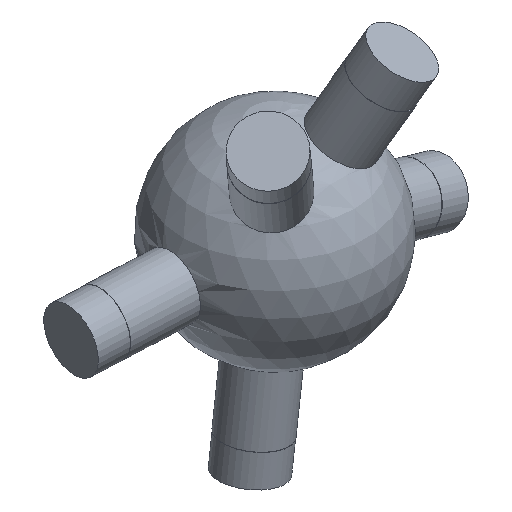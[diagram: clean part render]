
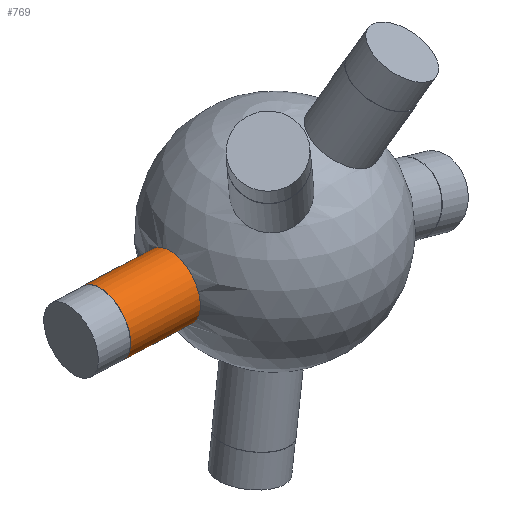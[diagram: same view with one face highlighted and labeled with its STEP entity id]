
A CAD part, isometric view. The second image highlights one B-rep face of the part: STEP entity #769.
In plain terms, the highlighted cylindrical face has radius 6 mm (diameter 12 mm), a full revolution.
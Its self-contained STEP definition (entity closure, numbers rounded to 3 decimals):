
#33 = SPHERICAL_SURFACE('',#34,20.);
#34 = AXIS2_PLACEMENT_3D('',#35,#36,#37);
#35 = CARTESIAN_POINT('',(0.,0.,0.));
#36 = DIRECTION('',(0.,0.,1.));
#37 = DIRECTION('',(1.,0.,-0.));
#352 = EDGE_CURVE('',#353,#353,#355,.T.);
#353 = VERTEX_POINT('',#354);
#354 = CARTESIAN_POINT('',(-19.474,-4.506,
    -0.674));
#355 = SURFACE_CURVE('',#356,(#361,#423),.PCURVE_S1.);
#356 = CIRCLE('',#357,6.);
#357 = AXIS2_PLACEMENT_3D('',#358,#359,#360);
#358 = CARTESIAN_POINT('',(-19.01,1.476,
    -0.674));
#359 = DIRECTION('',(-0.996,0.077,
    -0.035));
#360 = DIRECTION('',(-0.077,-0.997,
    0.));
#361 = PCURVE('',#33,#362);
#362 = DEFINITIONAL_REPRESENTATION('',(#363),#422);
#363 = B_SPLINE_CURVE_WITH_KNOTS('',8,(#364,#365,#366,#367,#368,#369,
    #370,#371,#372,#373,#374,#375,#376,#377,#378,#379,#380,#381,#382,
    #383,#384,#385,#386,#387,#388,#389,#390,#391,#392,#393,#394,#395,
    #396,#397,#398,#399,#400,#401,#402,#403,#404,#405,#406,#407,#408,
    #409,#410,#411,#412,#413,#414,#415,#416,#417,#418,#419,#420,#421),
  .UNSPECIFIED.,.F.,.F.,(9,7,7,7,7,7,7,7,9),(0.,0.785,
    1.473,2.074,3.126,3.915,
    4.507,5.395,6.283),.UNSPECIFIED.);
#364 = CARTESIAN_POINT('',(3.369,-0.034));
#365 = CARTESIAN_POINT('',(3.369,-0.004));
#366 = CARTESIAN_POINT('',(3.365,0.025));
#367 = CARTESIAN_POINT('',(3.359,0.054));
#368 = CARTESIAN_POINT('',(3.349,0.082));
#369 = CARTESIAN_POINT('',(3.336,0.109));
#370 = CARTESIAN_POINT('',(3.321,0.135));
#371 = CARTESIAN_POINT('',(3.302,0.158));
#372 = CARTESIAN_POINT('',(3.263,0.198));
#373 = CARTESIAN_POINT('',(3.243,0.215));
#374 = CARTESIAN_POINT('',(3.221,0.229));
#375 = CARTESIAN_POINT('',(3.198,0.242));
#376 = CARTESIAN_POINT('',(3.173,0.252));
#377 = CARTESIAN_POINT('',(3.147,0.26));
#378 = CARTESIAN_POINT('',(3.121,0.265));
#379 = CARTESIAN_POINT('',(3.071,0.27));
#380 = CARTESIAN_POINT('',(3.048,0.27));
#381 = CARTESIAN_POINT('',(3.024,0.269));
#382 = CARTESIAN_POINT('',(3.001,0.265));
#383 = CARTESIAN_POINT('',(2.978,0.259));
#384 = CARTESIAN_POINT('',(2.956,0.252));
#385 = CARTESIAN_POINT('',(2.935,0.242));
#386 = CARTESIAN_POINT('',(2.88,0.211));
#387 = CARTESIAN_POINT('',(2.848,0.187));
#388 = CARTESIAN_POINT('',(2.82,0.157));
#389 = CARTESIAN_POINT('',(2.797,0.124));
#390 = CARTESIAN_POINT('',(2.779,0.088));
#391 = CARTESIAN_POINT('',(2.767,0.05));
#392 = CARTESIAN_POINT('',(2.76,0.01));
#393 = CARTESIAN_POINT('',(2.759,-0.059));
#394 = CARTESIAN_POINT('',(2.761,-0.088));
#395 = CARTESIAN_POINT('',(2.767,-0.118));
#396 = CARTESIAN_POINT('',(2.775,-0.146));
#397 = CARTESIAN_POINT('',(2.787,-0.174));
#398 = CARTESIAN_POINT('',(2.802,-0.2));
#399 = CARTESIAN_POINT('',(2.82,-0.224));
#400 = CARTESIAN_POINT('',(2.857,-0.262));
#401 = CARTESIAN_POINT('',(2.873,-0.277));
#402 = CARTESIAN_POINT('',(2.892,-0.291));
#403 = CARTESIAN_POINT('',(2.912,-0.303));
#404 = CARTESIAN_POINT('',(2.932,-0.313));
#405 = CARTESIAN_POINT('',(2.954,-0.322));
#406 = CARTESIAN_POINT('',(2.976,-0.329));
#407 = CARTESIAN_POINT('',(3.034,-0.341));
#408 = CARTESIAN_POINT('',(3.069,-0.343));
#409 = CARTESIAN_POINT('',(3.105,-0.342));
#410 = CARTESIAN_POINT('',(3.141,-0.335));
#411 = CARTESIAN_POINT('',(3.175,-0.325));
#412 = CARTESIAN_POINT('',(3.206,-0.31));
#413 = CARTESIAN_POINT('',(3.236,-0.291));
#414 = CARTESIAN_POINT('',(3.288,-0.248));
#415 = CARTESIAN_POINT('',(3.311,-0.223));
#416 = CARTESIAN_POINT('',(3.33,-0.195));
#417 = CARTESIAN_POINT('',(3.346,-0.165));
#418 = CARTESIAN_POINT('',(3.358,-0.133));
#419 = CARTESIAN_POINT('',(3.366,-0.1));
#420 = CARTESIAN_POINT('',(3.369,-0.067));
#421 = CARTESIAN_POINT('',(3.369,-0.034));
#422 = ( GEOMETRIC_REPRESENTATION_CONTEXT(2) 
PARAMETRIC_REPRESENTATION_CONTEXT() REPRESENTATION_CONTEXT('2D SPACE',''
  ) );
#423 = PCURVE('',#424,#429);
#424 = CYLINDRICAL_SURFACE('',#425,6.);
#425 = AXIS2_PLACEMENT_3D('',#426,#427,#428);
#426 = CARTESIAN_POINT('',(0.,0.,0.));
#427 = DIRECTION('',(-0.996,0.077,
    -0.035));
#428 = DIRECTION('',(-0.077,-0.997,
    0.));
#429 = DEFINITIONAL_REPRESENTATION('',(#430),#434);
#430 = LINE('',#431,#432);
#431 = CARTESIAN_POINT('',(0.,19.079));
#432 = VECTOR('',#433,1.);
#433 = DIRECTION('',(1.,0.));
#434 = ( GEOMETRIC_REPRESENTATION_CONTEXT(2) 
PARAMETRIC_REPRESENTATION_CONTEXT() REPRESENTATION_CONTEXT('2D SPACE',''
  ) );
#769 = ADVANCED_FACE('',(#770),#424,.T.);
#770 = FACE_BOUND('',#771,.T.);
#771 = EDGE_LOOP('',(#772,#795,#822,#823));
#772 = ORIENTED_EDGE('',*,*,#773,.T.);
#773 = EDGE_CURVE('',#353,#774,#776,.T.);
#774 = VERTEX_POINT('',#775);
#775 = CARTESIAN_POINT('',(-32.478,-3.496,
    -1.134));
#776 = SEAM_CURVE('',#777,(#781,#788),.PCURVE_S1.);
#777 = LINE('',#778,#779);
#778 = CARTESIAN_POINT('',(-0.465,-5.982,
    0.));
#779 = VECTOR('',#780,1.);
#780 = DIRECTION('',(-0.996,0.077,
    -0.035));
#781 = PCURVE('',#424,#782);
#782 = DEFINITIONAL_REPRESENTATION('',(#783),#787);
#783 = LINE('',#784,#785);
#784 = CARTESIAN_POINT('',(6.283,-0.));
#785 = VECTOR('',#786,1.);
#786 = DIRECTION('',(0.,1.));
#787 = ( GEOMETRIC_REPRESENTATION_CONTEXT(2) 
PARAMETRIC_REPRESENTATION_CONTEXT() REPRESENTATION_CONTEXT('2D SPACE',''
  ) );
#788 = PCURVE('',#424,#789);
#789 = DEFINITIONAL_REPRESENTATION('',(#790),#794);
#790 = LINE('',#791,#792);
#791 = CARTESIAN_POINT('',(0.,-0.));
#792 = VECTOR('',#793,1.);
#793 = DIRECTION('',(0.,1.));
#794 = ( GEOMETRIC_REPRESENTATION_CONTEXT(2) 
PARAMETRIC_REPRESENTATION_CONTEXT() REPRESENTATION_CONTEXT('2D SPACE',''
  ) );
#795 = ORIENTED_EDGE('',*,*,#796,.F.);
#796 = EDGE_CURVE('',#774,#774,#797,.T.);
#797 = SURFACE_CURVE('',#798,(#803,#810),.PCURVE_S1.);
#798 = CIRCLE('',#799,6.);
#799 = AXIS2_PLACEMENT_3D('',#800,#801,#802);
#800 = CARTESIAN_POINT('',(-32.013,2.486,
    -1.134));
#801 = DIRECTION('',(-0.996,0.077,
    -0.035));
#802 = DIRECTION('',(-0.077,-0.997,
    0.));
#803 = PCURVE('',#424,#804);
#804 = DEFINITIONAL_REPRESENTATION('',(#805),#809);
#805 = LINE('',#806,#807);
#806 = CARTESIAN_POINT('',(0.,32.13));
#807 = VECTOR('',#808,1.);
#808 = DIRECTION('',(1.,0.));
#809 = ( GEOMETRIC_REPRESENTATION_CONTEXT(2) 
PARAMETRIC_REPRESENTATION_CONTEXT() REPRESENTATION_CONTEXT('2D SPACE',''
  ) );
#810 = PCURVE('',#811,#816);
#811 = PLANE('',#812);
#812 = AXIS2_PLACEMENT_3D('',#813,#814,#815);
#813 = CARTESIAN_POINT('',(-32.013,2.486,
    -1.134));
#814 = DIRECTION('',(-0.996,0.077,
    -0.035));
#815 = DIRECTION('',(-0.077,-0.997,
    0.));
#816 = DEFINITIONAL_REPRESENTATION('',(#817),#821);
#817 = CIRCLE('',#818,6.);
#818 = AXIS2_PLACEMENT_2D('',#819,#820);
#819 = CARTESIAN_POINT('',(0.,0.));
#820 = DIRECTION('',(1.,0.));
#821 = ( GEOMETRIC_REPRESENTATION_CONTEXT(2) 
PARAMETRIC_REPRESENTATION_CONTEXT() REPRESENTATION_CONTEXT('2D SPACE',''
  ) );
#822 = ORIENTED_EDGE('',*,*,#773,.F.);
#823 = ORIENTED_EDGE('',*,*,#352,.T.);
